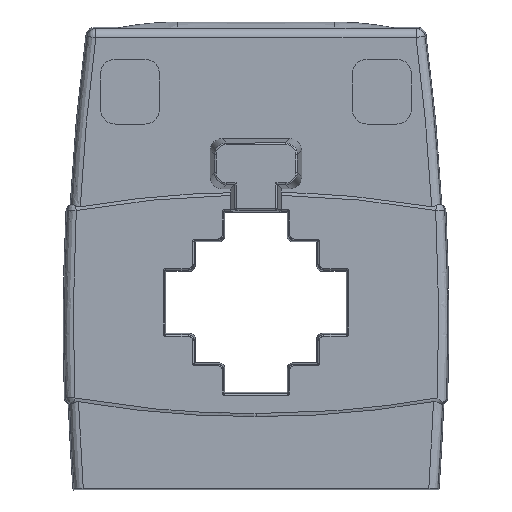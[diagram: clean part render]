
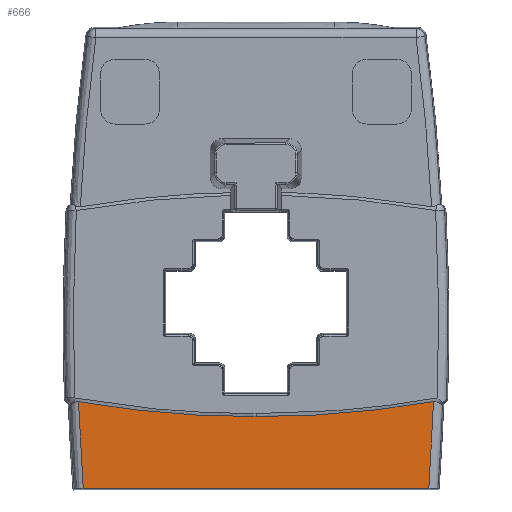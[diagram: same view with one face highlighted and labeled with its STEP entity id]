
A CAD part, front view. The second image highlights one B-rep face of the part: STEP entity #666.
In plain terms, the highlighted planar face has unit normal (0, -1, 0).
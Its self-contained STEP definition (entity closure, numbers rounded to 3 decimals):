
#249=CIRCLE('',#5484,174.039);
#292=CIRCLE('',#5592,174.039);
#666=ADVANCED_FACE('',(#1081),#901,.T.);
#901=PLANE('',#5593);
#1081=FACE_OUTER_BOUND('',#1412,.T.);
#1412=EDGE_LOOP('',(#2821,#2822,#2823,#2824,#2825));
#1757=LINE('',#8504,#2029);
#2029=VECTOR('',#6341,1.);
#2821=ORIENTED_EDGE('',*,*,#4631,.T.);
#2822=ORIENTED_EDGE('',*,*,#4632,.T.);
#2823=ORIENTED_EDGE('',*,*,#4633,.F.);
#2824=ORIENTED_EDGE('',*,*,#4414,.F.);
#2825=ORIENTED_EDGE('',*,*,#4634,.T.);
#3884=VERTEX_POINT('',#7537);
#3885=VERTEX_POINT('',#7538);
#4014=VERTEX_POINT('',#8505);
#4015=VERTEX_POINT('',#8506);
#4016=VERTEX_POINT('',#8511);
#4414=EDGE_CURVE('',#3884,#3885,#249,.T.);
#4631=EDGE_CURVE('',#4014,#4015,#1757,.T.);
#4632=EDGE_CURVE('',#4015,#4016,#5204,.T.);
#4633=EDGE_CURVE('',#3885,#4016,#292,.T.);
#4634=EDGE_CURVE('',#3884,#4014,#5205,.T.);
#5204=B_SPLINE_CURVE_WITH_KNOTS('',3,(#8507,#8508,#8509,#8510),
 .UNSPECIFIED.,.F.,.F.,(4,4),(0.,1.),.UNSPECIFIED.);
#5205=B_SPLINE_CURVE_WITH_KNOTS('',3,(#8513,#8514,#8515,#8516),
 .UNSPECIFIED.,.F.,.F.,(4,4),(0.,1.),.UNSPECIFIED.);
#5484=AXIS2_PLACEMENT_3D('',#7536,#6053,#6054);
#5592=AXIS2_PLACEMENT_3D('',#8512,#6342,#6343);
#5593=AXIS2_PLACEMENT_3D('',#8517,#6344,#6345);
#6053=DIRECTION('',(0.,-1.,0.));
#6054=DIRECTION('',(0.,0.,-1.));
#6341=DIRECTION('',(1.,0.,0.));
#6342=DIRECTION('',(0.,-1.,0.));
#6343=DIRECTION('',(0.,0.,-1.));
#6344=DIRECTION('',(0.,-1.,0.));
#6345=DIRECTION('',(0.,0.,-1.));
#7536=CARTESIAN_POINT('',(0.165,-15.113,154.666));
#7537=CARTESIAN_POINT('',(-29.373,-15.113,-16.847));
#7538=CARTESIAN_POINT('',(0.729,-15.113,-19.371));
#8504=CARTESIAN_POINT('',(-25.151,-15.113,-31.558));
#8505=CARTESIAN_POINT('',(-28.57,-15.113,-31.559));
#8506=CARTESIAN_POINT('',(30.031,-15.113,-31.548));
#8507=CARTESIAN_POINT('',(30.031,-15.113,-31.548));
#8508=CARTESIAN_POINT('',(30.394,-15.113,-26.65));
#8509=CARTESIAN_POINT('',(30.66,-15.113,-21.746));
#8510=CARTESIAN_POINT('',(30.83,-15.113,-16.837));
#8511=CARTESIAN_POINT('',(30.83,-15.113,-16.837));
#8512=CARTESIAN_POINT('',(1.231,-15.113,154.667));
#8513=CARTESIAN_POINT('',(-29.373,-15.113,-16.847));
#8514=CARTESIAN_POINT('',(-29.202,-15.113,-21.756));
#8515=CARTESIAN_POINT('',(-28.934,-15.113,-26.66));
#8516=CARTESIAN_POINT('',(-28.57,-15.113,-31.559));
#8517=CARTESIAN_POINT('',(0.977,-15.113,-5.61));
